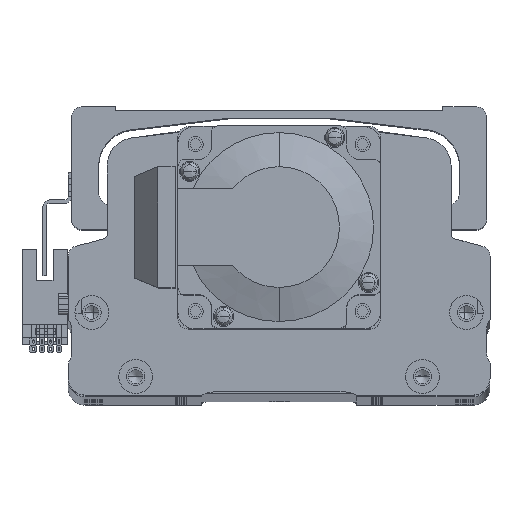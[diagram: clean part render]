
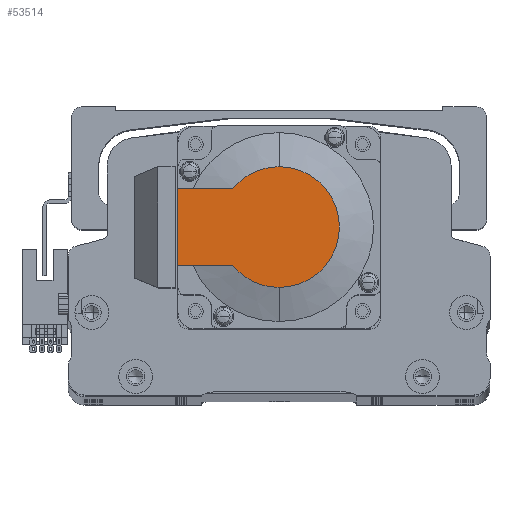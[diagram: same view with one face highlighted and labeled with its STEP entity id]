
A CAD part, top view. The second image highlights one B-rep face of the part: STEP entity #53514.
In plain terms, the highlighted planar face has unit normal (0, 0, 1) as drawn and (-1, 0, 0) by its records, which use the part's own axes.
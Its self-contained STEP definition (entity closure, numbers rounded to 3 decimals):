
#969 = CARTESIAN_POINT ( 'NONE',  ( -118.5, 0., 11.45 ) ) ;
#2682 = CARTESIAN_POINT ( 'NONE',  ( -118.5, -8.941, 0. ) ) ;
#3988 = ORIENTED_EDGE ( 'NONE', *, *, #13095, .F. ) ;
#5076 = LINE ( 'NONE', #35264, #28486 ) ;
#5648 = DIRECTION ( 'NONE',  ( 0., -1., 0. ) ) ;
#7383 = DIRECTION ( 'NONE',  ( 0., 0., 1. ) ) ;
#7627 = ORIENTED_EDGE ( 'NONE', *, *, #31992, .T. ) ;
#7632 = VERTEX_POINT ( 'NONE', #17311 ) ;
#9081 = FACE_OUTER_BOUND ( 'NONE', #45125, .T. ) ;
#9966 = CIRCLE ( 'NONE', #32533, 17.881 ) ;
#10686 = CARTESIAN_POINT ( 'NONE',  ( -118.5, 0., 0. ) ) ;
#11738 = AXIS2_PLACEMENT_3D ( 'NONE', #10686, #43289, #15378 ) ;
#12444 = CARTESIAN_POINT ( 'NONE',  ( -118.5, 0., -17.881 ) ) ;
#13095 = EDGE_CURVE ( 'NONE', #27006, #7632, #47219, .T. ) ;
#15378 = DIRECTION ( 'NONE',  ( 0., 0., -1. ) ) ;
#15664 = CARTESIAN_POINT ( 'NONE',  ( -118.5, 0., 0. ) ) ;
#15992 = ORIENTED_EDGE ( 'NONE', *, *, #19584, .T. ) ;
#16899 = EDGE_CURVE ( 'NONE', #31085, #31466, #44635, .T. ) ;
#17311 = CARTESIAN_POINT ( 'NONE',  ( -118.5, 30., 11.45 ) ) ;
#19296 = ORIENTED_EDGE ( 'NONE', *, *, #16899, .T. ) ;
#19584 = EDGE_CURVE ( 'NONE', #31466, #34425, #9966, .T. ) ;
#20386 = DIRECTION ( 'NONE',  ( 0., 0., -1. ) ) ;
#22128 = ORIENTED_EDGE ( 'NONE', *, *, #44043, .T. ) ;
#23683 = DIRECTION ( 'NONE',  ( -1., 0., 0. ) ) ;
#24819 = DIRECTION ( 'NONE',  ( 0., 0., 1. ) ) ;
#27006 = VERTEX_POINT ( 'NONE', #38476 ) ;
#27452 = CARTESIAN_POINT ( 'NONE',  ( -118.5, 13.735, 11.45 ) ) ;
#27839 = AXIS2_PLACEMENT_3D ( 'NONE', #15664, #48256, #20386 ) ;
#28486 = VECTOR ( 'NONE', #30604, 1000. ) ;
#30415 = ORIENTED_EDGE ( 'NONE', *, *, #36117, .F. ) ;
#30604 = DIRECTION ( 'NONE',  ( 0., -1., 0. ) ) ;
#31085 = VERTEX_POINT ( 'NONE', #37398 ) ;
#31466 = VERTEX_POINT ( 'NONE', #12444 ) ;
#31992 = EDGE_CURVE ( 'NONE', #27006, #31085, #5076, .T. ) ;
#32533 = AXIS2_PLACEMENT_3D ( 'NONE', #51550, #23683, #56255 ) ;
#33200 = CARTESIAN_POINT ( 'NONE',  ( -118.5, 0., 17.881 ) ) ;
#34425 = VERTEX_POINT ( 'NONE', #33200 ) ;
#35264 = CARTESIAN_POINT ( 'NONE',  ( -118.5, -8.941, -11.45 ) ) ;
#35369 = DIRECTION ( 'NONE',  ( -1., 0., 0. ) ) ;
#36117 = EDGE_CURVE ( 'NONE', #7632, #52454, #40201, .T. ) ;
#37398 = CARTESIAN_POINT ( 'NONE',  ( -118.5, 13.735, -11.45 ) ) ;
#38476 = CARTESIAN_POINT ( 'NONE',  ( -118.5, 30., -11.45 ) ) ;
#40201 = LINE ( 'NONE', #969, #51060 ) ;
#43289 = DIRECTION ( 'NONE',  ( -1., 0., 0. ) ) ;
#44043 = EDGE_CURVE ( 'NONE', #34425, #52454, #56906, .T. ) ;
#44478 = PLANE ( 'NONE',  #45286 ) ;
#44635 = CIRCLE ( 'NONE', #27839, 17.881 ) ;
#45125 = EDGE_LOOP ( 'NONE', ( #7627, #19296, #15992, #22128, #30415, #3988 ) ) ;
#45286 = AXIS2_PLACEMENT_3D ( 'NONE', #2682, #35369, #7383 ) ;
#47219 = LINE ( 'NONE', #57155, #58159 ) ;
#48256 = DIRECTION ( 'NONE',  ( -1., 0., 0. ) ) ;
#51060 = VECTOR ( 'NONE', #5648, 1000. ) ;
#51550 = CARTESIAN_POINT ( 'NONE',  ( -118.5, 0., 0. ) ) ;
#52454 = VERTEX_POINT ( 'NONE', #27452 ) ;
#53514 = ADVANCED_FACE ( 'NONE', ( #9081 ), #44478, .T. ) ;
#56255 = DIRECTION ( 'NONE',  ( 0., 0., -1. ) ) ;
#56906 = CIRCLE ( 'NONE', #11738, 17.881 ) ;
#57155 = CARTESIAN_POINT ( 'NONE',  ( -118.5, 30., 25. ) ) ;
#58159 = VECTOR ( 'NONE', #24819, 1000. ) ;
